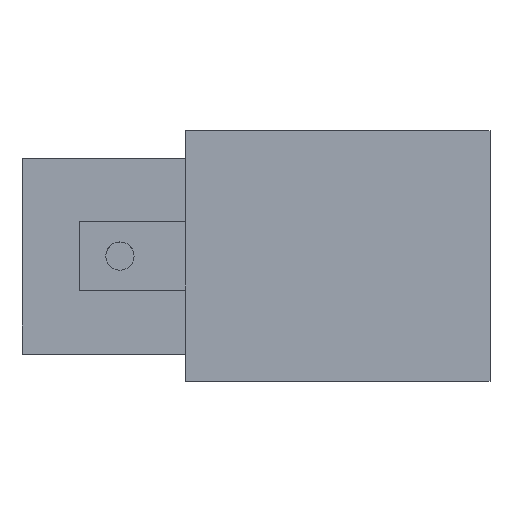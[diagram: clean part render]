
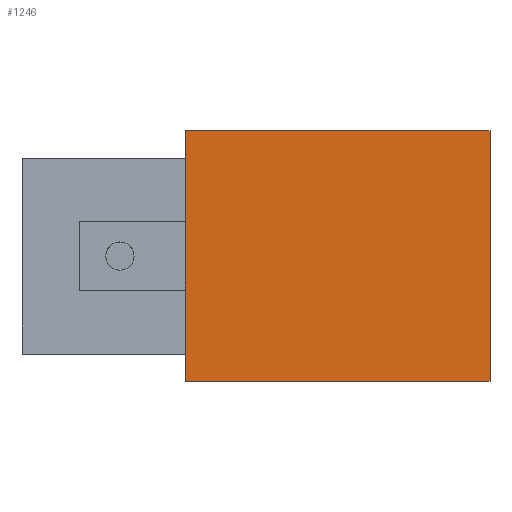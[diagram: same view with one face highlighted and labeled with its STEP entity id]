
A CAD part, top view. The second image highlights one B-rep face of the part: STEP entity #1246.
In plain terms, the highlighted planar face has unit normal (0, 0, 1).
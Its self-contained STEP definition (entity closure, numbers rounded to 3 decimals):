
#932 = VERTEX_POINT('',#933);
#933 = CARTESIAN_POINT('',(-8.,-23.,22.7));
#940 = PLANE('',#941);
#941 = AXIS2_PLACEMENT_3D('',#942,#943,#944);
#942 = CARTESIAN_POINT('',(-8.,-23.,14.7));
#943 = DIRECTION('',(1.,0.,0.));
#944 = DIRECTION('',(0.,0.,1.));
#952 = PLANE('',#953);
#953 = AXIS2_PLACEMENT_3D('',#954,#955,#956);
#954 = CARTESIAN_POINT('',(-8.,-23.,14.7));
#955 = DIRECTION('',(0.,1.,0.));
#956 = DIRECTION('',(0.,0.,1.));
#993 = VERTEX_POINT('',#994);
#994 = CARTESIAN_POINT('',(-8.,23.,22.7));
#1008 = PLANE('',#1009);
#1009 = AXIS2_PLACEMENT_3D('',#1010,#1011,#1012);
#1010 = CARTESIAN_POINT('',(-8.,23.,14.7));
#1011 = DIRECTION('',(0.,1.,0.));
#1012 = DIRECTION('',(0.,0.,1.));
#1020 = EDGE_CURVE('',#932,#993,#1021,.T.);
#1021 = SURFACE_CURVE('',#1022,(#1026,#1033),.PCURVE_S1.);
#1022 = LINE('',#1023,#1024);
#1023 = CARTESIAN_POINT('',(-8.,-23.,22.7));
#1024 = VECTOR('',#1025,1.);
#1025 = DIRECTION('',(0.,1.,0.));
#1026 = PCURVE('',#940,#1027);
#1027 = DEFINITIONAL_REPRESENTATION('',(#1028),#1032);
#1028 = LINE('',#1029,#1030);
#1029 = CARTESIAN_POINT('',(8.,0.));
#1030 = VECTOR('',#1031,1.);
#1031 = DIRECTION('',(0.,-1.));
#1032 = ( GEOMETRIC_REPRESENTATION_CONTEXT(2) 
PARAMETRIC_REPRESENTATION_CONTEXT() REPRESENTATION_CONTEXT('2D SPACE',''
  ) );
#1033 = PCURVE('',#1034,#1039);
#1034 = PLANE('',#1035);
#1035 = AXIS2_PLACEMENT_3D('',#1036,#1037,#1038);
#1036 = CARTESIAN_POINT('',(-8.,-23.,22.7));
#1037 = DIRECTION('',(0.,0.,1.));
#1038 = DIRECTION('',(1.,0.,0.));
#1039 = DEFINITIONAL_REPRESENTATION('',(#1040),#1044);
#1040 = LINE('',#1041,#1042);
#1041 = CARTESIAN_POINT('',(0.,0.));
#1042 = VECTOR('',#1043,1.);
#1043 = DIRECTION('',(0.,1.));
#1044 = ( GEOMETRIC_REPRESENTATION_CONTEXT(2) 
PARAMETRIC_REPRESENTATION_CONTEXT() REPRESENTATION_CONTEXT('2D SPACE',''
  ) );
#1052 = VERTEX_POINT('',#1053);
#1053 = CARTESIAN_POINT('',(48.,-23.,22.7));
#1060 = PLANE('',#1061);
#1061 = AXIS2_PLACEMENT_3D('',#1062,#1063,#1064);
#1062 = CARTESIAN_POINT('',(48.,-23.,14.7));
#1063 = DIRECTION('',(1.,0.,0.));
#1064 = DIRECTION('',(0.,0.,1.));
#1103 = VERTEX_POINT('',#1104);
#1104 = CARTESIAN_POINT('',(48.,23.,22.7));
#1125 = EDGE_CURVE('',#1052,#1103,#1126,.T.);
#1126 = SURFACE_CURVE('',#1127,(#1131,#1138),.PCURVE_S1.);
#1127 = LINE('',#1128,#1129);
#1128 = CARTESIAN_POINT('',(48.,-23.,22.7));
#1129 = VECTOR('',#1130,1.);
#1130 = DIRECTION('',(0.,1.,0.));
#1131 = PCURVE('',#1060,#1132);
#1132 = DEFINITIONAL_REPRESENTATION('',(#1133),#1137);
#1133 = LINE('',#1134,#1135);
#1134 = CARTESIAN_POINT('',(8.,0.));
#1135 = VECTOR('',#1136,1.);
#1136 = DIRECTION('',(0.,-1.));
#1137 = ( GEOMETRIC_REPRESENTATION_CONTEXT(2) 
PARAMETRIC_REPRESENTATION_CONTEXT() REPRESENTATION_CONTEXT('2D SPACE',''
  ) );
#1138 = PCURVE('',#1034,#1139);
#1139 = DEFINITIONAL_REPRESENTATION('',(#1140),#1144);
#1140 = LINE('',#1141,#1142);
#1141 = CARTESIAN_POINT('',(56.,0.));
#1142 = VECTOR('',#1143,1.);
#1143 = DIRECTION('',(0.,1.));
#1144 = ( GEOMETRIC_REPRESENTATION_CONTEXT(2) 
PARAMETRIC_REPRESENTATION_CONTEXT() REPRESENTATION_CONTEXT('2D SPACE',''
  ) );
#1171 = EDGE_CURVE('',#932,#1052,#1172,.T.);
#1172 = SURFACE_CURVE('',#1173,(#1177,#1184),.PCURVE_S1.);
#1173 = LINE('',#1174,#1175);
#1174 = CARTESIAN_POINT('',(-8.,-23.,22.7));
#1175 = VECTOR('',#1176,1.);
#1176 = DIRECTION('',(1.,0.,0.));
#1177 = PCURVE('',#952,#1178);
#1178 = DEFINITIONAL_REPRESENTATION('',(#1179),#1183);
#1179 = LINE('',#1180,#1181);
#1180 = CARTESIAN_POINT('',(8.,0.));
#1181 = VECTOR('',#1182,1.);
#1182 = DIRECTION('',(0.,1.));
#1183 = ( GEOMETRIC_REPRESENTATION_CONTEXT(2) 
PARAMETRIC_REPRESENTATION_CONTEXT() REPRESENTATION_CONTEXT('2D SPACE',''
  ) );
#1184 = PCURVE('',#1034,#1185);
#1185 = DEFINITIONAL_REPRESENTATION('',(#1186),#1190);
#1186 = LINE('',#1187,#1188);
#1187 = CARTESIAN_POINT('',(0.,0.));
#1188 = VECTOR('',#1189,1.);
#1189 = DIRECTION('',(1.,0.));
#1190 = ( GEOMETRIC_REPRESENTATION_CONTEXT(2) 
PARAMETRIC_REPRESENTATION_CONTEXT() REPRESENTATION_CONTEXT('2D SPACE',''
  ) );
#1218 = EDGE_CURVE('',#993,#1103,#1219,.T.);
#1219 = SURFACE_CURVE('',#1220,(#1224,#1231),.PCURVE_S1.);
#1220 = LINE('',#1221,#1222);
#1221 = CARTESIAN_POINT('',(-8.,23.,22.7));
#1222 = VECTOR('',#1223,1.);
#1223 = DIRECTION('',(1.,0.,0.));
#1224 = PCURVE('',#1008,#1225);
#1225 = DEFINITIONAL_REPRESENTATION('',(#1226),#1230);
#1226 = LINE('',#1227,#1228);
#1227 = CARTESIAN_POINT('',(8.,0.));
#1228 = VECTOR('',#1229,1.);
#1229 = DIRECTION('',(0.,1.));
#1230 = ( GEOMETRIC_REPRESENTATION_CONTEXT(2) 
PARAMETRIC_REPRESENTATION_CONTEXT() REPRESENTATION_CONTEXT('2D SPACE',''
  ) );
#1231 = PCURVE('',#1034,#1232);
#1232 = DEFINITIONAL_REPRESENTATION('',(#1233),#1237);
#1233 = LINE('',#1234,#1235);
#1234 = CARTESIAN_POINT('',(0.,46.));
#1235 = VECTOR('',#1236,1.);
#1236 = DIRECTION('',(1.,0.));
#1237 = ( GEOMETRIC_REPRESENTATION_CONTEXT(2) 
PARAMETRIC_REPRESENTATION_CONTEXT() REPRESENTATION_CONTEXT('2D SPACE',''
  ) );
#1246 = ADVANCED_FACE('',(#1247),#1034,.T.);
#1247 = FACE_BOUND('',#1248,.T.);
#1248 = EDGE_LOOP('',(#1249,#1250,#1251,#1252));
#1249 = ORIENTED_EDGE('',*,*,#1020,.F.);
#1250 = ORIENTED_EDGE('',*,*,#1171,.T.);
#1251 = ORIENTED_EDGE('',*,*,#1125,.T.);
#1252 = ORIENTED_EDGE('',*,*,#1218,.F.);
